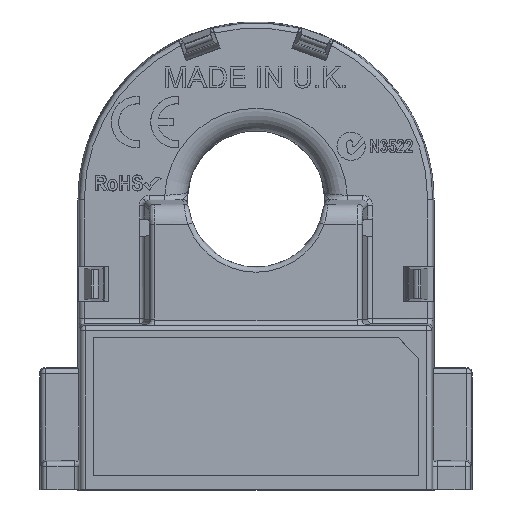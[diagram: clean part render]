
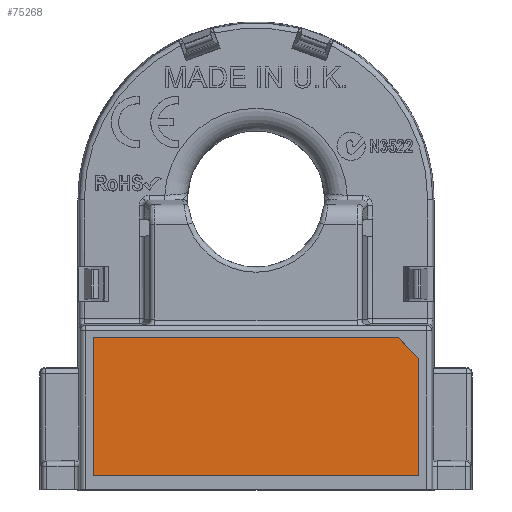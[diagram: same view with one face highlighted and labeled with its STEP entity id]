
A CAD part, top view. The second image highlights one B-rep face of the part: STEP entity #75268.
In plain terms, the highlighted planar face has unit normal (0, 0, 1).
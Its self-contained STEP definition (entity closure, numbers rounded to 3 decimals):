
#62315 = PLANE('',#62316);
#62316 = AXIS2_PLACEMENT_3D('',#62317,#62318,#62319);
#62317 = CARTESIAN_POINT('',(8.946,17.987,
    52.771));
#62318 = DIRECTION('',(0.,0.999,0.035));
#62319 = DIRECTION('',(0.,-0.035,0.999));
#62343 = PLANE('',#62344);
#62344 = AXIS2_PLACEMENT_3D('',#62345,#62346,#62347);
#62345 = CARTESIAN_POINT('',(-23.054,31.487,
    52.771));
#62346 = DIRECTION('',(0.999,0.,0.035));
#62347 = DIRECTION('',(0.035,0.,-0.999));
#62371 = PLANE('',#62372);
#62372 = AXIS2_PLACEMENT_3D('',#62373,#62374,#62375);
#62373 = CARTESIAN_POINT('',(6.946,31.487,
    52.771));
#62374 = DIRECTION('',(0.,-0.999,0.035));
#62375 = DIRECTION('',(0.,-0.035,-0.999));
#62399 = PLANE('',#62400);
#62400 = AXIS2_PLACEMENT_3D('',#62401,#62402,#62403);
#62401 = CARTESIAN_POINT('',(6.946,31.487,
    52.771));
#62402 = DIRECTION('',(-0.707,-0.707,
    0.035));
#62403 = DIRECTION('',(0.707,-0.707,0.));
#62425 = PLANE('',#62426);
#62426 = AXIS2_PLACEMENT_3D('',#62427,#62428,#62429);
#62427 = CARTESIAN_POINT('',(8.946,29.487,
    52.771));
#62428 = DIRECTION('',(-0.999,0.,0.035));
#62429 = DIRECTION('',(0.035,0.,0.999));
#72514 = VERTEX_POINT('',#72515);
#72515 = CARTESIAN_POINT('',(8.946,17.987,
    52.771));
#72536 = EDGE_CURVE('',#72537,#72514,#72539,.T.);
#72537 = VERTEX_POINT('',#72538);
#72538 = CARTESIAN_POINT('',(-23.054,17.987,
    52.771));
#72539 = SURFACE_CURVE('',#72540,(#72544,#72551),.PCURVE_S1.);
#72540 = LINE('',#72541,#72542);
#72541 = CARTESIAN_POINT('',(8.946,17.987,
    52.771));
#72542 = VECTOR('',#72543,1.);
#72543 = DIRECTION('',(1.,0.,0.));
#72544 = PCURVE('',#62315,#72545);
#72545 = DEFINITIONAL_REPRESENTATION('',(#72546),#72550);
#72546 = LINE('',#72547,#72548);
#72547 = CARTESIAN_POINT('',(0.,0.));
#72548 = VECTOR('',#72549,1.);
#72549 = DIRECTION('',(0.,1.));
#72550 = ( GEOMETRIC_REPRESENTATION_CONTEXT(2) 
PARAMETRIC_REPRESENTATION_CONTEXT() REPRESENTATION_CONTEXT('2D SPACE',''
  ) );
#72551 = PCURVE('',#72552,#72557);
#72552 = PLANE('',#72553);
#72553 = AXIS2_PLACEMENT_3D('',#72554,#72555,#72556);
#72554 = CARTESIAN_POINT('',(-7.054,16.587,
    52.771));
#72555 = DIRECTION('',(0.,0.,-1.));
#72556 = DIRECTION('',(-1.,0.,0.));
#72557 = DEFINITIONAL_REPRESENTATION('',(#72558),#72562);
#72558 = LINE('',#72559,#72560);
#72559 = CARTESIAN_POINT('',(-16.,1.4));
#72560 = VECTOR('',#72561,1.);
#72561 = DIRECTION('',(-1.,0.));
#72562 = ( GEOMETRIC_REPRESENTATION_CONTEXT(2) 
PARAMETRIC_REPRESENTATION_CONTEXT() REPRESENTATION_CONTEXT('2D SPACE',''
  ) );
#72590 = EDGE_CURVE('',#72591,#72537,#72593,.T.);
#72591 = VERTEX_POINT('',#72592);
#72592 = CARTESIAN_POINT('',(-23.054,31.487,
    52.771));
#72593 = SURFACE_CURVE('',#72594,(#72598,#72605),.PCURVE_S1.);
#72594 = LINE('',#72595,#72596);
#72595 = CARTESIAN_POINT('',(-23.054,31.487,
    52.771));
#72596 = VECTOR('',#72597,1.);
#72597 = DIRECTION('',(0.,-1.,0.));
#72598 = PCURVE('',#62343,#72599);
#72599 = DEFINITIONAL_REPRESENTATION('',(#72600),#72604);
#72600 = LINE('',#72601,#72602);
#72601 = CARTESIAN_POINT('',(0.,0.));
#72602 = VECTOR('',#72603,1.);
#72603 = DIRECTION('',(0.,-1.));
#72604 = ( GEOMETRIC_REPRESENTATION_CONTEXT(2) 
PARAMETRIC_REPRESENTATION_CONTEXT() REPRESENTATION_CONTEXT('2D SPACE',''
  ) );
#72605 = PCURVE('',#72552,#72606);
#72606 = DEFINITIONAL_REPRESENTATION('',(#72607),#72611);
#72607 = LINE('',#72608,#72609);
#72608 = CARTESIAN_POINT('',(16.,14.9));
#72609 = VECTOR('',#72610,1.);
#72610 = DIRECTION('',(0.,-1.));
#72611 = ( GEOMETRIC_REPRESENTATION_CONTEXT(2) 
PARAMETRIC_REPRESENTATION_CONTEXT() REPRESENTATION_CONTEXT('2D SPACE',''
  ) );
#72639 = EDGE_CURVE('',#72640,#72591,#72642,.T.);
#72640 = VERTEX_POINT('',#72641);
#72641 = CARTESIAN_POINT('',(6.946,31.487,
    52.771));
#72642 = SURFACE_CURVE('',#72643,(#72647,#72654),.PCURVE_S1.);
#72643 = LINE('',#72644,#72645);
#72644 = CARTESIAN_POINT('',(6.946,31.487,
    52.771));
#72645 = VECTOR('',#72646,1.);
#72646 = DIRECTION('',(-1.,0.,0.));
#72647 = PCURVE('',#62371,#72648);
#72648 = DEFINITIONAL_REPRESENTATION('',(#72649),#72653);
#72649 = LINE('',#72650,#72651);
#72650 = CARTESIAN_POINT('',(0.,0.));
#72651 = VECTOR('',#72652,1.);
#72652 = DIRECTION('',(0.,-1.));
#72653 = ( GEOMETRIC_REPRESENTATION_CONTEXT(2) 
PARAMETRIC_REPRESENTATION_CONTEXT() REPRESENTATION_CONTEXT('2D SPACE',''
  ) );
#72654 = PCURVE('',#72552,#72655);
#72655 = DEFINITIONAL_REPRESENTATION('',(#72656),#72660);
#72656 = LINE('',#72657,#72658);
#72657 = CARTESIAN_POINT('',(-14.,14.9));
#72658 = VECTOR('',#72659,1.);
#72659 = DIRECTION('',(1.,0.));
#72660 = ( GEOMETRIC_REPRESENTATION_CONTEXT(2) 
PARAMETRIC_REPRESENTATION_CONTEXT() REPRESENTATION_CONTEXT('2D SPACE',''
  ) );
#72688 = EDGE_CURVE('',#72689,#72640,#72691,.T.);
#72689 = VERTEX_POINT('',#72690);
#72690 = CARTESIAN_POINT('',(8.946,29.487,
    52.771));
#72691 = SURFACE_CURVE('',#72692,(#72696,#72703),.PCURVE_S1.);
#72692 = LINE('',#72693,#72694);
#72693 = CARTESIAN_POINT('',(6.946,31.487,
    52.771));
#72694 = VECTOR('',#72695,1.);
#72695 = DIRECTION('',(-0.707,0.707,0.));
#72696 = PCURVE('',#62399,#72697);
#72697 = DEFINITIONAL_REPRESENTATION('',(#72698),#72702);
#72698 = LINE('',#72699,#72700);
#72699 = CARTESIAN_POINT('',(0.,0.));
#72700 = VECTOR('',#72701,1.);
#72701 = DIRECTION('',(-1.,0.));
#72702 = ( GEOMETRIC_REPRESENTATION_CONTEXT(2) 
PARAMETRIC_REPRESENTATION_CONTEXT() REPRESENTATION_CONTEXT('2D SPACE',''
  ) );
#72703 = PCURVE('',#72552,#72704);
#72704 = DEFINITIONAL_REPRESENTATION('',(#72705),#72709);
#72705 = LINE('',#72706,#72707);
#72706 = CARTESIAN_POINT('',(-14.,14.9));
#72707 = VECTOR('',#72708,1.);
#72708 = DIRECTION('',(0.707,0.707));
#72709 = ( GEOMETRIC_REPRESENTATION_CONTEXT(2) 
PARAMETRIC_REPRESENTATION_CONTEXT() REPRESENTATION_CONTEXT('2D SPACE',''
  ) );
#72737 = EDGE_CURVE('',#72514,#72689,#72738,.T.);
#72738 = SURFACE_CURVE('',#72739,(#72743,#72750),.PCURVE_S1.);
#72739 = LINE('',#72740,#72741);
#72740 = CARTESIAN_POINT('',(8.946,29.487,
    52.771));
#72741 = VECTOR('',#72742,1.);
#72742 = DIRECTION('',(0.,1.,0.));
#72743 = PCURVE('',#62425,#72744);
#72744 = DEFINITIONAL_REPRESENTATION('',(#72745),#72749);
#72745 = LINE('',#72746,#72747);
#72746 = CARTESIAN_POINT('',(0.,0.));
#72747 = VECTOR('',#72748,1.);
#72748 = DIRECTION('',(0.,1.));
#72749 = ( GEOMETRIC_REPRESENTATION_CONTEXT(2) 
PARAMETRIC_REPRESENTATION_CONTEXT() REPRESENTATION_CONTEXT('2D SPACE',''
  ) );
#72750 = PCURVE('',#72552,#72751);
#72751 = DEFINITIONAL_REPRESENTATION('',(#72752),#72756);
#72752 = LINE('',#72753,#72754);
#72753 = CARTESIAN_POINT('',(-16.,12.9));
#72754 = VECTOR('',#72755,1.);
#72755 = DIRECTION('',(0.,1.));
#72756 = ( GEOMETRIC_REPRESENTATION_CONTEXT(2) 
PARAMETRIC_REPRESENTATION_CONTEXT() REPRESENTATION_CONTEXT('2D SPACE',''
  ) );
#75268 = ADVANCED_FACE('',(#75269),#72552,.F.);
#75269 = FACE_BOUND('',#75270,.T.);
#75270 = EDGE_LOOP('',(#75271,#75272,#75273,#75274,#75275));
#75271 = ORIENTED_EDGE('',*,*,#72590,.T.);
#75272 = ORIENTED_EDGE('',*,*,#72536,.T.);
#75273 = ORIENTED_EDGE('',*,*,#72737,.T.);
#75274 = ORIENTED_EDGE('',*,*,#72688,.T.);
#75275 = ORIENTED_EDGE('',*,*,#72639,.T.);
